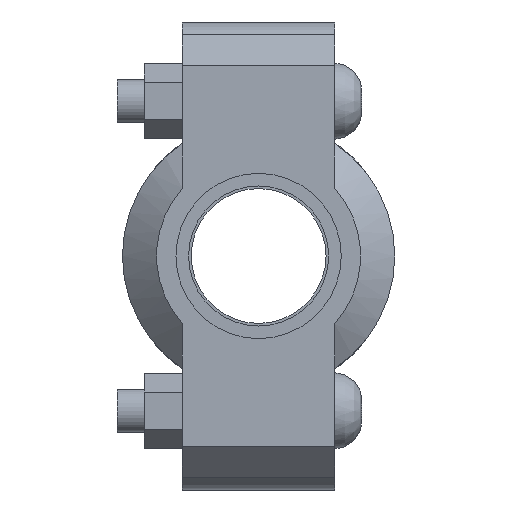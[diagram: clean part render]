
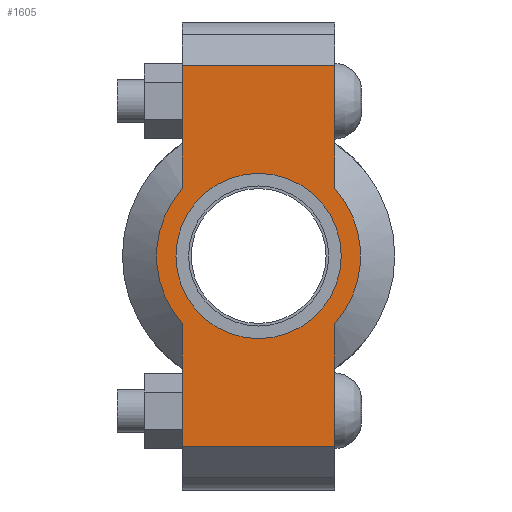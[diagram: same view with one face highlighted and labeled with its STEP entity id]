
A CAD part, left-side view. The second image highlights one B-rep face of the part: STEP entity #1605.
In plain terms, the highlighted planar face has unit normal (-1, 0, 0) as drawn and (0, 0, 1) by its records, which use the part's own axes.
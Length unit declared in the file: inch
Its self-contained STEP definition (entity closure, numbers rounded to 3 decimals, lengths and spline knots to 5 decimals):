
#160=LINE('',#2775,#257);
#175=LINE('',#2834,#272);
#183=LINE('',#2864,#280);
#185=LINE('',#2867,#282);
#186=LINE('',#2872,#283);
#187=LINE('',#2873,#284);
#257=VECTOR('',#2259,0.3937);
#272=VECTOR('',#2294,0.3937);
#280=VECTOR('',#2314,0.3937);
#282=VECTOR('',#2318,0.3937);
#283=VECTOR('',#2323,0.3937);
#284=VECTOR('',#2324,0.3937);
#348=FACE_BOUND('',#525,.T.);
#416=FACE_OUTER_BOUND('',#524,.T.);
#524=EDGE_LOOP('',(#1306,#1307,#1308,#1309,#1310,#1311,#1312,#1313));
#525=EDGE_LOOP('',(#1314));
#607=CIRCLE('',#1833,0.95);
#631=CIRCLE('',#1885,1.172);
#632=CIRCLE('',#1886,1.172);
#703=VERTEX_POINT('',#2601);
#744=VERTEX_POINT('',#2772);
#745=VERTEX_POINT('',#2774);
#766=VERTEX_POINT('',#2829);
#767=VERTEX_POINT('',#2833);
#776=VERTEX_POINT('',#2859);
#777=VERTEX_POINT('',#2863);
#778=VERTEX_POINT('',#2869);
#779=VERTEX_POINT('',#2871);
#867=EDGE_CURVE('',#703,#703,#607,.T.);
#924=EDGE_CURVE('',#745,#744,#160,.T.);
#949=EDGE_CURVE('',#767,#766,#175,.T.);
#962=EDGE_CURVE('',#777,#776,#183,.T.);
#964=EDGE_CURVE('',#777,#744,#185,.T.);
#965=EDGE_CURVE('',#776,#778,#631,.T.);
#966=EDGE_CURVE('',#778,#779,#186,.T.);
#967=EDGE_CURVE('',#767,#779,#187,.T.);
#968=EDGE_CURVE('',#766,#745,#632,.T.);
#1306=ORIENTED_EDGE('',*,*,#964,.F.);
#1307=ORIENTED_EDGE('',*,*,#962,.T.);
#1308=ORIENTED_EDGE('',*,*,#965,.T.);
#1309=ORIENTED_EDGE('',*,*,#966,.T.);
#1310=ORIENTED_EDGE('',*,*,#967,.F.);
#1311=ORIENTED_EDGE('',*,*,#949,.T.);
#1312=ORIENTED_EDGE('',*,*,#968,.T.);
#1313=ORIENTED_EDGE('',*,*,#924,.T.);
#1314=ORIENTED_EDGE('',*,*,#867,.T.);
#1445=PLANE('',#1884);
#1605=ADVANCED_FACE('',(#416,#348),#1445,.T.);
#1833=AXIS2_PLACEMENT_3D('',#2603,#2149,#2150);
#1884=AXIS2_PLACEMENT_3D('',#2868,#2319,#2320);
#1885=AXIS2_PLACEMENT_3D('',#2870,#2321,#2322);
#1886=AXIS2_PLACEMENT_3D('',#2874,#2325,#2326);
#2149=DIRECTION('center_axis',(0.,0.,-1.));
#2150=DIRECTION('ref_axis',(-1.,0.,0.));
#2259=DIRECTION('',(-1.,0.,0.));
#2294=DIRECTION('',(-1.,0.,0.));
#2314=DIRECTION('',(1.,0.,0.));
#2318=DIRECTION('',(0.,1.,0.));
#2319=DIRECTION('center_axis',(0.,0.,1.));
#2320=DIRECTION('ref_axis',(1.,0.,0.));
#2321=DIRECTION('center_axis',(0.,0.,1.));
#2322=DIRECTION('ref_axis',(-1.,0.,0.));
#2323=DIRECTION('',(1.,0.,0.));
#2324=DIRECTION('',(0.,-1.,0.));
#2325=DIRECTION('center_axis',(0.,0.,1.));
#2326=DIRECTION('ref_axis',(-1.,0.,0.));
#2601=CARTESIAN_POINT('',(0.95,0.,0.94));
#2603=CARTESIAN_POINT('Origin',(0.,0.,0.94));
#2772=CARTESIAN_POINT('',(-2.19,0.875,0.94));
#2774=CARTESIAN_POINT('',(-0.77972,0.875,0.94));
#2775=CARTESIAN_POINT('',(2.69,0.875,0.94));
#2829=CARTESIAN_POINT('',(0.77972,0.875,0.94));
#2833=CARTESIAN_POINT('',(2.19,0.875,0.94));
#2834=CARTESIAN_POINT('',(2.69,0.875,0.94));
#2859=CARTESIAN_POINT('',(-0.77972,-0.875,0.94));
#2863=CARTESIAN_POINT('',(-2.19,-0.875,0.94));
#2864=CARTESIAN_POINT('',(-2.69,-0.875,0.94));
#2867=CARTESIAN_POINT('',(-2.19,0.4375,0.94));
#2868=CARTESIAN_POINT('Origin',(0.,0.,0.94));
#2869=CARTESIAN_POINT('',(0.77972,-0.875,0.94));
#2870=CARTESIAN_POINT('Origin',(0.,0.,0.94));
#2871=CARTESIAN_POINT('',(2.19,-0.875,0.94));
#2872=CARTESIAN_POINT('',(-2.69,-0.875,0.94));
#2873=CARTESIAN_POINT('',(2.19,-0.4375,0.94));
#2874=CARTESIAN_POINT('Origin',(0.,0.,0.94));
